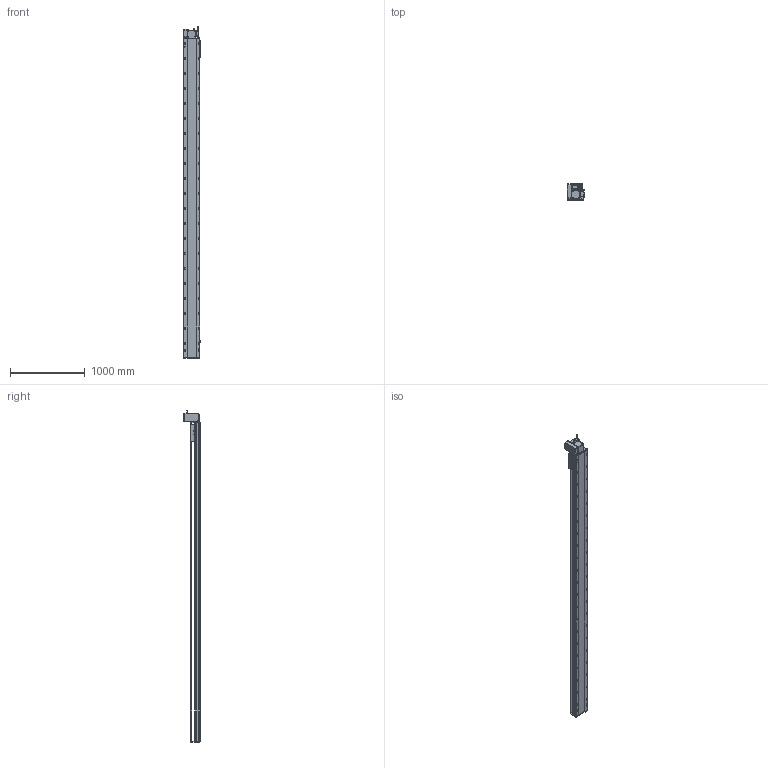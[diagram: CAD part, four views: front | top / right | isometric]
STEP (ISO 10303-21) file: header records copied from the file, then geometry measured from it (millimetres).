
FILE_DESCRIPTION (( 'STEP AP214' ), '1' );
FILE_NAME ('RTB22S-XX-3900-LW-M75-C4.STEP', '2025-12-12T07:10:34', ( '' ), ( '' ), 'SwSTEP 2.0', 'SolidWorks 2018', '' );
FILE_SCHEMA (( 'AUTOMOTIVE_DESIGN' ));
Length unit declared in the file: millimetre
Products named in the file (14): RTB22S-GY-017P^RTB22S-LW-々湍釱蚾饜_RTB22S-XX-XX-LW-M75-C4; RTB22S-XX-3900-LW-M75-C4; RTB22S-GY-008-M75--萇儂啣^RTB22S-LW-々湍釱蚾饜_RTB22S-XX-XX-LW-M75-C4; RTB22S-LW-々湍釱蚾饜^RTB22S-XX-XX-LW-M75-C4; RTB22S-GY-005P^RTB22S-LW-々湍釱蚾饜_RTB22S-XX-XX-LW-M75-C4; 750W萇儂^RTB22S-XX-XX-LW-M75-C4; RTB22S-L-004賑釱^RTB22S-XX-XX-LW-M75-C4; RTB22S-GY-007奻裔^RTB22S-XX-XX-LW-M75-C4; OMRON EE-SX672 传感器^RTB22S-XX-XX-LW-M75-C4; RTH22-GY-013外置感应片^RTB22S-XX-XX-LW-M75-C4; RTB22S-GY-001耜裔^RTB22S-XX-XX-LW-M75-C4; RTB22S-GY-014--々湍釱^RTB22S-LW-々湍釱蚾饜_RTB22S-XX-XX-LW-M75-C4; RTB22S-L-011菁釱^RTB22S-XX-XX-LW-M75-C4; RTB22S-GY-018P^RTB22S-LW-々湍釱蚾饜_RTB22S-XX-XX-LW-M75-C4
Assembly tree (16 placements, depth 3):
  RTB22S-XX-3900-LW-M75-C4
    RTB22S-L-011菁釱^RTB22S-XX-XX-LW-M75-C4
    RTB22S-GY-001耜裔^RTB22S-XX-XX-LW-M75-C4
    750W萇儂^RTB22S-XX-XX-LW-M75-C4
    RTB22S-GY-007奻裔^RTB22S-XX-XX-LW-M75-C4
    RTB22S-L-004賑釱^RTB22S-XX-XX-LW-M75-C4
    RTH22-GY-013外置感应片^RTB22S-XX-XX-LW-M75-C4
    OMRON EE-SX672 传感器^RTB22S-XX-XX-LW-M75-C4  x3
    RTB22S-LW-々湍釱蚾饜^RTB22S-XX-XX-LW-M75-C4
      RTB22S-GY-014--々湍釱^RTB22S-LW-々湍釱蚾饜_RTB22S-XX-XX-LW-M75-C4
      RTB22S-GY-017P^RTB22S-LW-々湍釱蚾饜_RTB22S-XX-XX-LW-M75-C4  x2
      RTB22S-GY-005P^RTB22S-LW-々湍釱蚾饜_RTB22S-XX-XX-LW-M75-C4
      RTB22S-GY-008-M75--萇儂啣^RTB22S-LW-々湍釱蚾饜_RTB22S-XX-XX-LW-M75-C4
      RTB22S-GY-018P^RTB22S-LW-々湍釱蚾饜_RTB22S-XX-XX-LW-M75-C4
Bounding box: 238.5 x 215.5 x 4432.2 mm (x, y, z)
Volume: 55072423.1 mm3; surface area: 5595355.7 mm2
Topology: 15 solids, 15 shells, 2235 faces, 6086 edges, 3872 vertices
Faces by surface type: plane 943, cylinder 790, bspline 296, cone 194, sphere 8, torus 4
Entity records: 61980 total; most frequent: CARTESIAN_POINT 17244, ORIENTED_EDGE 8848, DIRECTION 8758, EDGE_CURVE 4424, AXIS2_PLACEMENT_3D 3182, VERTEX_POINT 2876, VECTOR 2394, LINE 2394
